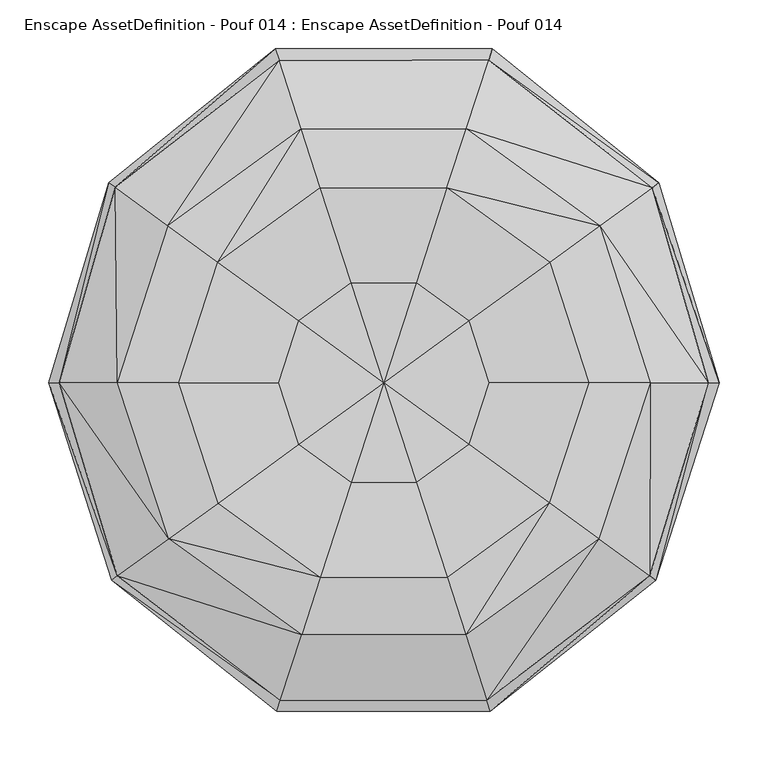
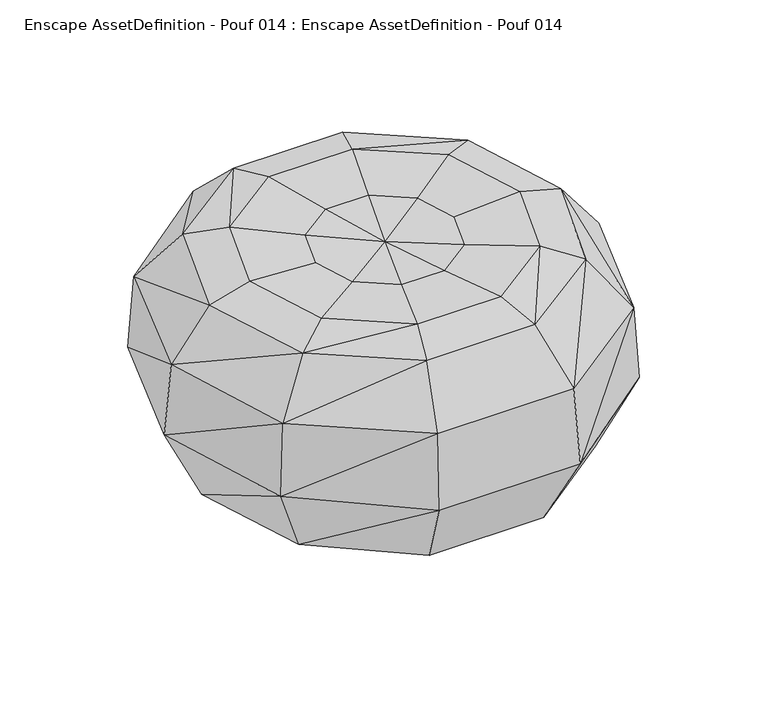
"""IFC4 building model written with IfcOpenShell, lengths in millimetres: geographic element geometry, Enscape AssetDefinition - Pouf 014 : Enscape AssetDefinition - Pouf 014."""

from ifc_helpers import new_model, si_unit, origin, place, context, project, spatial, triangles, source, transform, mapped, element, save


def enscape_assetdefinition_pouf_014_enscape_assetdefinition_ed6ffb50(model_context):
    return source(origin(), model_context, "Body", "Tessellation", [
        triangles([(149.3183113, -3.1724325, 7.0444709), (120.9177556, -91.0066271, 7.0639992), (89.0427844, -276.751276, 69.2004318), (46.1918435, -145.2676774, 7.4210604), (-88.8110217, -276.8207122, 69.1956855), (-46.1168163, -145.1984047, 7.404164), (230.386428, -170.3988469, 72.5220087), (109.369051, -339.6952538, 188.2579494), (284.866006, -3.0217428, 72.359128), (278.9174229, -205.8167431, 190.039345), (272.7944499, -201.3291718, 304.9660509), (-109.3587409, -339.6997956, 188.2646895), (220.2822483, -163.2048274, 379.4201546), (273.1651032, -3.2104841, 379.8877132), (332.3923565, -3.1571837, 302.8627091), (169.9118671, 120.3128325, 396.97457), (210.0060041, -3.1430097, 396.8562996), (105.6905873, -328.4658883, 307.1789609), (169.8318938, -126.5108281, 396.7298902), (221.4642255, 157.5725585, 380.3703509), (33.2090513, 99.0323091, 391.2427614), (107.4581029, -3.1628091, 391.2648531), (86.9333201, 59.9917143, 391.204101), (84.0096432, -261.5777472, 378.881452), (64.8925143, -202.721347, 396.6309136), (86.9317032, -66.3188989, 391.2086065), (2.01e-05, -3.1444163, 388.3713887), (-64.7878332, -202.7512689, 396.6313133), (33.1984233, -105.3510731, 391.2739005), (-33.209887, -105.3437335, 391.2735372), (-105.7603686, -328.444487, 307.1817224), (-83.9056797, -261.6066881, 378.8851945), (-332.3911211, -3.1398352, 302.8657067), (-220.2890066, -163.1960525, 379.4208086), (-273.1625052, -3.02116, 379.8937085), (-169.7736307, -126.575468, 396.7302535), (-210.0017166, -3.1830304, 396.8564449), (-86.9294686, -66.3013809, 391.2067171), (-275.1370759, 196.8534094, 305.9470957), (-84.4600881, 256.9805715, 380.8907407), (-221.3416131, 157.775108, 380.3660997), (-169.9319241, 120.2885062, 396.974025), (-86.9252084, 60.0090824, 391.2047187), (-107.4475113, -3.1427687, 391.2635814), (-33.1995701, 99.0398395, 391.2431974), (64.8517374, 196.5471418, 397.0614106), (-64.9096826, 196.5330256, 397.0609746), (107.6345275, 327.0897732, 309.0011971), (275.2741314, 196.6795102, 305.8888507), (84.6142575, 256.9216724, 380.8933931), (111.191596, 338.9132884, 187.2001287), (-107.2673987, 327.2038651, 309.0085367), (281.6450907, 201.5063231, 189.4430514), (343.8257429, -3.1358074, 190.2172229), (89.1402894, 273.7393959, 66.2287018), (-111.3506342, 338.8497022, 187.1333269), (-90.726121, 273.2452764, 66.242173), (-46.2395241, 139.1988436, 6.4462527), (231.7809105, 165.7368495, 70.5295885), (-343.2089928, -3.1533564, 190.3402169), (-281.6835694, 201.4442448, 189.4313697), (-120.9366134, 84.7321918, 6.4432085), (-232.2519937, 165.0692848, 70.5089366), (-272.8161783, -201.2978693, 304.9744806), (-149.4940091, -3.1150437, 7.0750797), (-284.8532161, -3.2709066, 72.3592324), (-230.2683211, -170.5556869, 72.5132656), (-120.9259219, -91.0187176, 7.0662997), (-278.9197846, -205.8119106, 190.0363655), (121.1422695, 84.7908819, 6.4767406), (46.249716, 139.1428241, 6.4379956)], [[62, 58, 71], [70, 59, 9], [70, 71, 59], [62, 71, 1], [71, 70, 1], [1, 70, 9], [18, 24, 31], [18, 31, 12], [31, 64, 69], [12, 31, 69], [12, 69, 67], [6, 5, 67], [5, 12, 67], [68, 62, 1], [68, 6, 67], [68, 65, 62], [68, 67, 66], [67, 69, 66], [65, 68, 66], [64, 33, 60], [69, 60, 66], [69, 64, 60], [65, 66, 63], [66, 60, 63], [62, 65, 63], [33, 39, 61], [60, 61, 63], [60, 33, 61], [62, 63, 57], [63, 61, 57], [58, 62, 57], [58, 57, 55], [71, 55, 59], [71, 58, 55], [61, 56, 57], [61, 39, 56], [57, 56, 55], [39, 52, 56], [56, 51, 55], [56, 52, 51], [55, 51, 59], [51, 53, 59], [53, 54, 9], [59, 53, 9], [53, 49, 54], [52, 48, 51], [48, 49, 53], [51, 48, 53], [20, 50, 46], [50, 20, 49], [48, 50, 49], [40, 50, 48], [52, 40, 48], [50, 40, 47], [50, 47, 46], [46, 47, 45], [46, 45, 21], [21, 45, 27], [45, 43, 27], [47, 43, 45], [43, 44, 27], [47, 42, 43], [42, 44, 43], [40, 42, 47], [40, 41, 42], [41, 40, 52], [39, 41, 52], [35, 41, 39], [33, 35, 39], [42, 37, 44], [41, 35, 37], [41, 37, 42], [44, 38, 27], [37, 38, 44], [38, 30, 27], [37, 36, 38], [36, 30, 38], [35, 36, 37], [35, 34, 36], [34, 35, 33], [64, 34, 33], [24, 32, 31], [32, 34, 64], [31, 32, 64], [36, 28, 30], [34, 32, 28], [34, 28, 36], [30, 29, 27], [28, 29, 30], [28, 25, 29], [32, 24, 25], [32, 25, 28], [29, 26, 27], [25, 26, 29], [25, 19, 26], [24, 19, 25], [26, 22, 27], [19, 22, 26], [23, 21, 27], [22, 23, 27], [16, 46, 21], [16, 21, 23], [20, 46, 16], [19, 17, 22], [17, 16, 23], [17, 23, 22], [24, 13, 19], [13, 24, 18], [13, 17, 19], [13, 14, 17], [14, 20, 16], [14, 16, 17], [49, 15, 54], [20, 14, 15], [49, 20, 15], [14, 13, 11], [15, 14, 11], [11, 13, 18], [11, 18, 8], [8, 12, 5], [8, 18, 12], [15, 11, 10], [54, 15, 10], [10, 11, 8], [54, 10, 7], [1, 9, 7], [9, 54, 7], [10, 8, 3], [7, 10, 3], [3, 8, 5], [4, 3, 5], [4, 68, 1], [4, 6, 68], [6, 4, 5], [2, 7, 3], [2, 1, 7], [4, 2, 3], [2, 4, 1]]),
    ])


if __name__ == "__main__":
    model = new_model("IFC4")
    model_context = context("Model", 3, world=origin())
    ifc_project = project(units=[si_unit("LENGTHUNIT", "METRE", prefix="MILLI")], contexts=[model_context])
    site = spatial("IfcSite", under=ifc_project)
    building = spatial("IfcBuilding", under=site)
    placement = place(None, origin())
    enscape_assetdefinition_pouf_014_enscape_assetdefinition_shape = enscape_assetdefinition_pouf_014_enscape_assetdefinition_ed6ffb50(model_context)
    element("IfcGeographicElement", 1, ObjectType="Enscape AssetDefinition - Pouf 014 : Enscape AssetDefinition - Pouf 014", at=placement, inside=building, context=model_context, shape_type="MappedRepresentation", body=[
        mapped(enscape_assetdefinition_pouf_014_enscape_assetdefinition_shape, transform((0.0, 0.0, 0.0), x_axis=(1.0, 0.0, 0.0), y_axis=(0.0, 1.0, 0.0), z_axis=(0.0, 0.0, 1.0))),
    ])
    save(model, "model.ifc")
